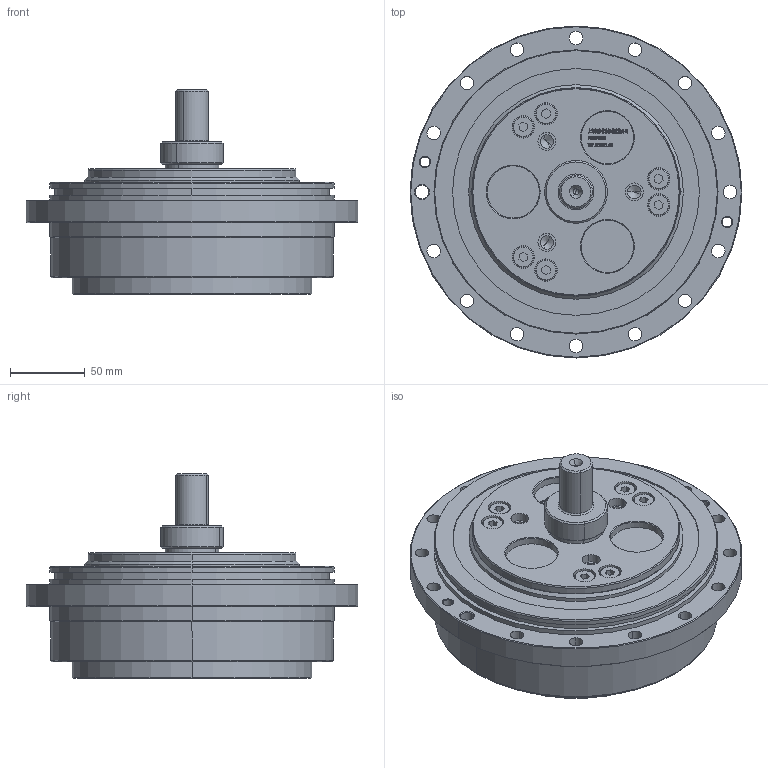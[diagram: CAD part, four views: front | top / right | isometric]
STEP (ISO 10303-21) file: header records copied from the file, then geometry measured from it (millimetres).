
FILE_DESCRIPTION (( 'STEP AP214' ), '1' );
FILE_NAME ('220BX-OP-B22shaft.STEP', '2022-11-12T01:46:48', ( '' ), ( '' ), 'SwSTEP 2.0', 'SolidWorks 2020', '' );
FILE_SCHEMA (( 'AUTOMOTIVE_DESIGN' ));
Length unit declared in the file: millimetre
Products named in the file (5): 錨璃175^220BX-OP-B22shaft; 220BX-OP-B22shaft.stp; 220BX-OP-B22shaft; 输入轴220BX-B-22轴.stp; 220BX-op.stp
Assembly tree (4 placements, depth 3):
  220BX-OP-B22shaft
    220BX-OP-B22shaft.stp
      220BX-op.stp
      输入轴220BX-B-22轴.stp
    錨璃175^220BX-OP-B22shaft
Bounding box: 222 x 222 x 137 mm (x, y, z)
Volume: 2061769.3 mm3; surface area: 211166.4 mm2
Topology: 68 solids, 74 shells, 2307 faces, 6093 edges, 3946 vertices
Faces by surface type: plane 1178, bspline 572, cylinder 251, cone 240, torus 66
Entity records: 114629 total; most frequent: CARTESIAN_POINT 41712, ORIENTED_EDGE 12066, DIRECTION 9048, EDGE_CURVE 6033, LINE 4012, VECTOR 4012, VERTEX_POINT 3946, AXIS2_PLACEMENT_3D 2518
